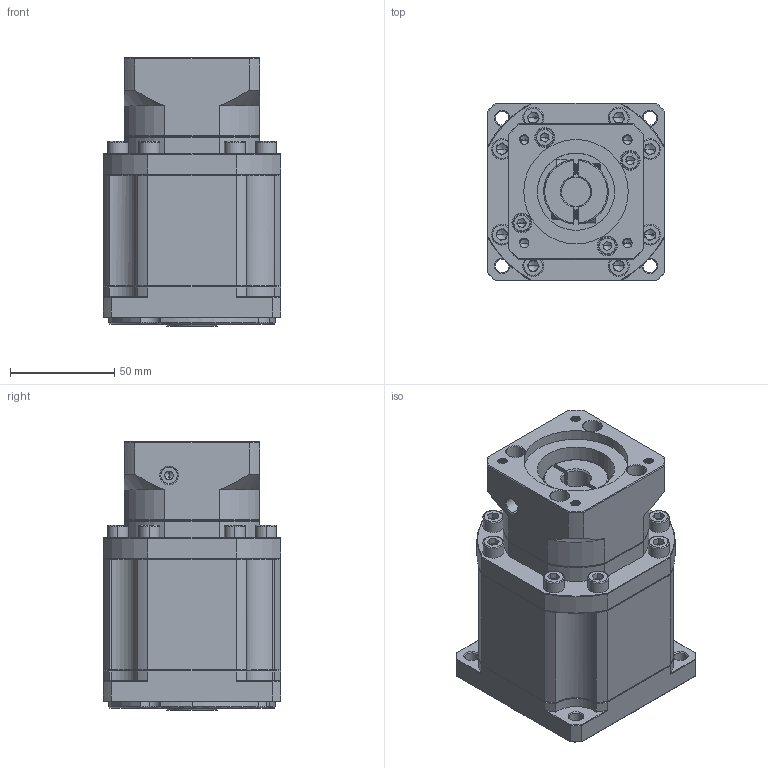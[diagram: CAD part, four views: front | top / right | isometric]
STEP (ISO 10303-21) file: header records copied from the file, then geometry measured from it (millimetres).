
FILE_DESCRIPTION (( 'STEP AP214' ), '1' );
FILE_NAME ('ZB90-K15-L3-14-50-70-M5.STEP', '2022-05-02T15:24:08', ( '' ), ( 'Microsoft' ), 'SwSTEP 2.0', 'SolidWorks 2016', '' );
FILE_SCHEMA (( 'AUTOMOTIVE_DESIGN' ));
Length unit declared in the file: millimetre
Products named in the file (1): ZB90-K15-L3-14-50-70-M5
Bounding box: 85 x 85 x 128.5 mm (x, y, z)
Volume: 646357.8 mm3; surface area: 80997.4 mm2
Topology: 6 solids, 6 shells, 2033 faces, 5333 edges, 3390 vertices
Faces by surface type: plane 998, cylinder 379, bspline 318, cone 316, torus 22
Entity records: 103882 total; most frequent: CARTESIAN_POINT 33895, ORIENTED_EDGE 10578, DIRECTION 8804, EDGE_CURVE 5289, VERTEX_POINT 3390, VECTOR 3282, LINE 3282, AXIS2_PLACEMENT_3D 2761
